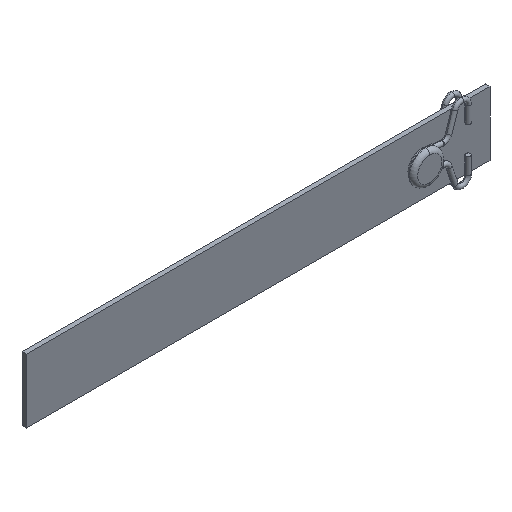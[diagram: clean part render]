
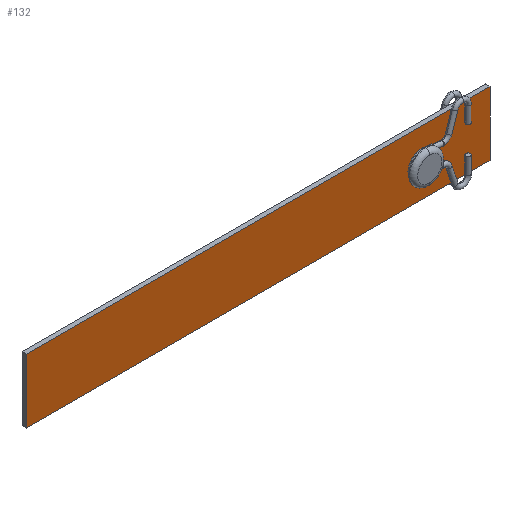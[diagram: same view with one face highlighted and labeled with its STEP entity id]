
A CAD part, isometric view. The second image highlights one B-rep face of the part: STEP entity #132.
In plain terms, the highlighted planar face has unit normal (0, -1, 0).
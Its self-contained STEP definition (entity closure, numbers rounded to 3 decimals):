
#6 = CARTESIAN_POINT ( 'NONE',  ( -100., -0.5, -6.9 ) ) ;
#7 = LINE ( 'NONE', #300, #1261 ) ;
#40 = CARTESIAN_POINT ( 'NONE',  ( -15., -0.5, -1.95 ) ) ;
#50 = CARTESIAN_POINT ( 'NONE',  ( -15., -0.5, 0. ) ) ;
#132 = ADVANCED_FACE ( 'NONE', ( #1436, #575 ), #1423, .F. ) ;
#161 = EDGE_CURVE ( 'NONE', #437, #2048, #465, .T. ) ;
#184 = LINE ( 'NONE', #6, #1551 ) ;
#187 = DIRECTION ( 'NONE',  ( 1., 0., 0. ) ) ;
#201 = EDGE_CURVE ( 'NONE', #1289, #1336, #1723, .T. ) ;
#214 = DIRECTION ( 'NONE',  ( 0., 0., 1. ) ) ;
#226 = EDGE_LOOP ( 'NONE', ( #1049, #1796 ) ) ;
#249 = DIRECTION ( 'NONE',  ( 0., 0., -1. ) ) ;
#285 = CARTESIAN_POINT ( 'NONE',  ( 0., -0.5, -6.9 ) ) ;
#300 = CARTESIAN_POINT ( 'NONE',  ( 0., -0.5, 6.9 ) ) ;
#375 = AXIS2_PLACEMENT_3D ( 'NONE', #50, #1412, #214 ) ;
#384 = EDGE_LOOP ( 'NONE', ( #1301, #542, #1855, #1405 ) ) ;
#407 = VERTEX_POINT ( 'NONE', #285 ) ;
#437 = VERTEX_POINT ( 'NONE', #736 ) ;
#465 = LINE ( 'NONE', #1040, #1328 ) ;
#542 = ORIENTED_EDGE ( 'NONE', *, *, #2067, .F. ) ;
#575 = FACE_OUTER_BOUND ( 'NONE', #384, .T. ) ;
#666 = VECTOR ( 'NONE', #699, 1000. ) ;
#677 = DIRECTION ( 'NONE',  ( 0., 0., 1. ) ) ;
#699 = DIRECTION ( 'NONE',  ( -1., 0., 0. ) ) ;
#733 = EDGE_CURVE ( 'NONE', #904, #437, #184, .T. ) ;
#736 = CARTESIAN_POINT ( 'NONE',  ( -100., -0.5, 6.9 ) ) ;
#884 = CARTESIAN_POINT ( 'NONE',  ( -100., -0.5, -6.9 ) ) ;
#904 = VERTEX_POINT ( 'NONE', #884 ) ;
#911 = EDGE_CURVE ( 'NONE', #407, #904, #1124, .T. ) ;
#1040 = CARTESIAN_POINT ( 'NONE',  ( 0., -0.5, 6.9 ) ) ;
#1049 = ORIENTED_EDGE ( 'NONE', *, *, #201, .T. ) ;
#1053 = CARTESIAN_POINT ( 'NONE',  ( 0., -0.5, -6.9 ) ) ;
#1056 = CARTESIAN_POINT ( 'NONE',  ( -15., -0.5, 1.95 ) ) ;
#1088 = CARTESIAN_POINT ( 'NONE',  ( 0., -0.5, 0. ) ) ;
#1124 = LINE ( 'NONE', #1053, #666 ) ;
#1257 = DIRECTION ( 'NONE',  ( 0., 1., 0. ) ) ;
#1261 = VECTOR ( 'NONE', #249, 1000. ) ;
#1289 = VERTEX_POINT ( 'NONE', #1056 ) ;
#1301 = ORIENTED_EDGE ( 'NONE', *, *, #911, .F. ) ;
#1328 = VECTOR ( 'NONE', #187, 1000. ) ;
#1336 = VERTEX_POINT ( 'NONE', #40 ) ;
#1405 = ORIENTED_EDGE ( 'NONE', *, *, #733, .F. ) ;
#1412 = DIRECTION ( 'NONE',  ( 0., 1., 0. ) ) ;
#1423 = PLANE ( 'NONE',  #1795 ) ;
#1431 = DIRECTION ( 'NONE',  ( 0., 0., 1. ) ) ;
#1436 = FACE_BOUND ( 'NONE', #226, .T. ) ;
#1551 = VECTOR ( 'NONE', #677, 1000. ) ;
#1641 = CARTESIAN_POINT ( 'NONE',  ( 0., -0.5, 6.9 ) ) ;
#1694 = AXIS2_PLACEMENT_3D ( 'NONE', #1801, #1808, #1935 ) ;
#1723 = CIRCLE ( 'NONE', #375, 1.95 ) ;
#1795 = AXIS2_PLACEMENT_3D ( 'NONE', #1088, #1257, #1431 ) ;
#1796 = ORIENTED_EDGE ( 'NONE', *, *, #2004, .T. ) ;
#1801 = CARTESIAN_POINT ( 'NONE',  ( -15., -0.5, 0. ) ) ;
#1808 = DIRECTION ( 'NONE',  ( 0., 1., 0. ) ) ;
#1855 = ORIENTED_EDGE ( 'NONE', *, *, #161, .F. ) ;
#1923 = CIRCLE ( 'NONE', #1694, 1.95 ) ;
#1935 = DIRECTION ( 'NONE',  ( 0., 0., 1. ) ) ;
#2004 = EDGE_CURVE ( 'NONE', #1336, #1289, #1923, .T. ) ;
#2048 = VERTEX_POINT ( 'NONE', #1641 ) ;
#2067 = EDGE_CURVE ( 'NONE', #2048, #407, #7, .T. ) ;
